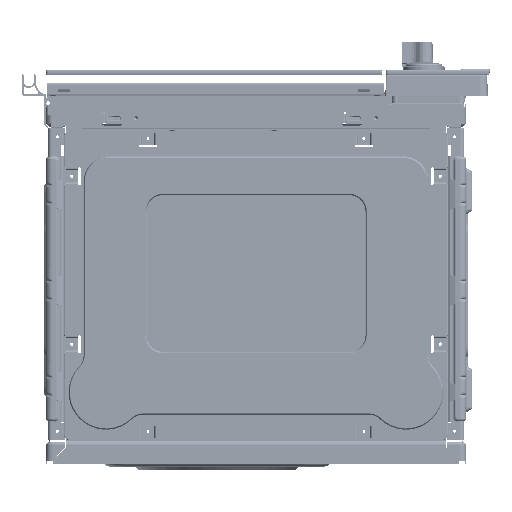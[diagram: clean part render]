
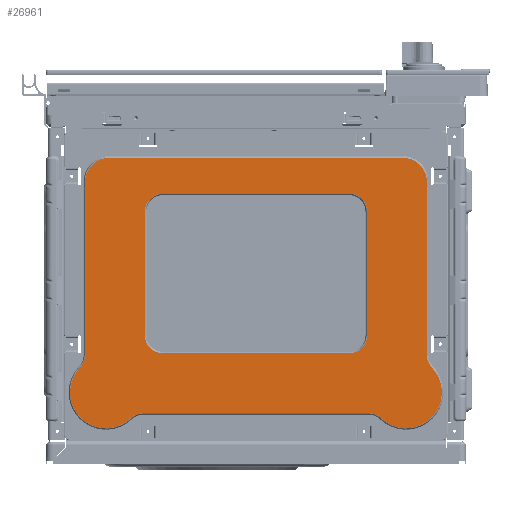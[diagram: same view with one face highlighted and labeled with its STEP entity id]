
A CAD part, left-side view. The second image highlights one B-rep face of the part: STEP entity #26961.
In plain terms, the highlighted planar face has unit normal (-1, 0, 0).
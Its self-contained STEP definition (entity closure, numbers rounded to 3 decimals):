
#2751=FACE_BOUND('',#54908,.T.);
#2752=FACE_BOUND('',#54909,.T.);
#15421=CIRCLE('',#210110,15.115);
#15422=CIRCLE('',#210111,29.885);
#15423=CIRCLE('',#210112,15.115);
#15424=CIRCLE('',#210113,19.885);
#15425=CIRCLE('',#210114,19.885);
#15426=CIRCLE('',#210115,15.115);
#15427=CIRCLE('',#210116,29.885);
#15428=CIRCLE('',#210117,15.115);
#15429=CIRCLE('',#210118,15.115);
#15430=CIRCLE('',#210119,15.115);
#15431=CIRCLE('',#210120,15.115);
#15432=CIRCLE('',#210121,15.115);
#26961=ADVANCED_FACE('',(#2751,#2752),#35973,.T.);
#35973=PLANE('',#210122);
#54908=EDGE_LOOP('',(#117836,#117837,#117838,#117839,#117840,#117841,#117842,
#117843,#117844,#117845,#117846,#117847));
#54909=EDGE_LOOP('',(#117848,#117849,#117850,#117851,#117852,#117853,#117854,
#117855));
#70042=LINE('',#363680,#85833);
#70043=LINE('',#363689,#85834);
#70044=LINE('',#363693,#85835);
#70045=LINE('',#363697,#85836);
#70046=LINE('',#363705,#85837);
#70047=LINE('',#363708,#85838);
#70048=LINE('',#363712,#85839);
#70049=LINE('',#363716,#85840);
#85833=VECTOR('',#245822,1.);
#85834=VECTOR('',#245831,1.);
#85835=VECTOR('',#245834,1.);
#85836=VECTOR('',#245837,1.);
#85837=VECTOR('',#245844,1.);
#85838=VECTOR('',#245847,1.);
#85839=VECTOR('',#245850,1.);
#85840=VECTOR('',#245853,1.);
#117836=ORIENTED_EDGE('',*,*,#182317,.T.);
#117837=ORIENTED_EDGE('',*,*,#182318,.T.);
#117838=ORIENTED_EDGE('',*,*,#182319,.T.);
#117839=ORIENTED_EDGE('',*,*,#182320,.T.);
#117840=ORIENTED_EDGE('',*,*,#182321,.T.);
#117841=ORIENTED_EDGE('',*,*,#182322,.T.);
#117842=ORIENTED_EDGE('',*,*,#182323,.T.);
#117843=ORIENTED_EDGE('',*,*,#182324,.T.);
#117844=ORIENTED_EDGE('',*,*,#182325,.T.);
#117845=ORIENTED_EDGE('',*,*,#182326,.F.);
#117846=ORIENTED_EDGE('',*,*,#182327,.T.);
#117847=ORIENTED_EDGE('',*,*,#182328,.T.);
#117848=ORIENTED_EDGE('',*,*,#182316,.T.);
#117849=ORIENTED_EDGE('',*,*,#182329,.T.);
#117850=ORIENTED_EDGE('',*,*,#182330,.T.);
#117851=ORIENTED_EDGE('',*,*,#182331,.T.);
#117852=ORIENTED_EDGE('',*,*,#182332,.T.);
#117853=ORIENTED_EDGE('',*,*,#182333,.T.);
#117854=ORIENTED_EDGE('',*,*,#182334,.T.);
#117855=ORIENTED_EDGE('',*,*,#182335,.T.);
#160320=VERTEX_POINT('',#363677);
#160321=VERTEX_POINT('',#363679);
#160322=VERTEX_POINT('',#363683);
#160323=VERTEX_POINT('',#363684);
#160324=VERTEX_POINT('',#363686);
#160325=VERTEX_POINT('',#363688);
#160326=VERTEX_POINT('',#363690);
#160327=VERTEX_POINT('',#363692);
#160328=VERTEX_POINT('',#363694);
#160329=VERTEX_POINT('',#363696);
#160330=VERTEX_POINT('',#363698);
#160331=VERTEX_POINT('',#363700);
#160332=VERTEX_POINT('',#363702);
#160333=VERTEX_POINT('',#363704);
#160334=VERTEX_POINT('',#363707);
#160335=VERTEX_POINT('',#363709);
#160336=VERTEX_POINT('',#363711);
#160337=VERTEX_POINT('',#363713);
#160338=VERTEX_POINT('',#363715);
#160339=VERTEX_POINT('',#363717);
#182316=EDGE_CURVE('',#160320,#160321,#70042,.T.);
#182317=EDGE_CURVE('',#160322,#160323,#15421,.T.);
#182318=EDGE_CURVE('',#160323,#160324,#15422,.T.);
#182319=EDGE_CURVE('',#160324,#160325,#15423,.T.);
#182320=EDGE_CURVE('',#160325,#160326,#70043,.T.);
#182321=EDGE_CURVE('',#160326,#160327,#15424,.T.);
#182322=EDGE_CURVE('',#160327,#160328,#70044,.T.);
#182323=EDGE_CURVE('',#160328,#160329,#15425,.T.);
#182324=EDGE_CURVE('',#160329,#160330,#70045,.T.);
#182325=EDGE_CURVE('',#160330,#160331,#15426,.T.);
#182326=EDGE_CURVE('',#160332,#160331,#15427,.T.);
#182327=EDGE_CURVE('',#160332,#160333,#15428,.T.);
#182328=EDGE_CURVE('',#160333,#160322,#70046,.T.);
#182329=EDGE_CURVE('',#160321,#160334,#15429,.T.);
#182330=EDGE_CURVE('',#160334,#160335,#70047,.T.);
#182331=EDGE_CURVE('',#160335,#160336,#15430,.T.);
#182332=EDGE_CURVE('',#160336,#160337,#70048,.T.);
#182333=EDGE_CURVE('',#160337,#160338,#15431,.T.);
#182334=EDGE_CURVE('',#160338,#160339,#70049,.T.);
#182335=EDGE_CURVE('',#160339,#160320,#15432,.T.);
#210110=AXIS2_PLACEMENT_3D('',#363682,#245825,#245826);
#210111=AXIS2_PLACEMENT_3D('',#363685,#245827,#245828);
#210112=AXIS2_PLACEMENT_3D('',#363687,#245829,#245830);
#210113=AXIS2_PLACEMENT_3D('',#363691,#245832,#245833);
#210114=AXIS2_PLACEMENT_3D('',#363695,#245835,#245836);
#210115=AXIS2_PLACEMENT_3D('',#363699,#245838,#245839);
#210116=AXIS2_PLACEMENT_3D('',#363701,#245840,#245841);
#210117=AXIS2_PLACEMENT_3D('',#363703,#245842,#245843);
#210118=AXIS2_PLACEMENT_3D('',#363706,#245845,#245846);
#210119=AXIS2_PLACEMENT_3D('',#363710,#245848,#245849);
#210120=AXIS2_PLACEMENT_3D('',#363714,#245851,#245852);
#210121=AXIS2_PLACEMENT_3D('',#363718,#245854,#245855);
#210122=AXIS2_PLACEMENT_3D('',#363719,#245856,#245857);
#245822=DIRECTION('',(0.,1.,0.));
#245825=DIRECTION('',(1.,0.,0.));
#245826=DIRECTION('',(0.,0.,1.));
#245827=DIRECTION('',(-1.,0.,0.));
#245828=DIRECTION('',(0.,0.692,-0.722));
#245829=DIRECTION('',(1.,0.,0.));
#245830=DIRECTION('',(0.,0.722,-0.692));
#245831=DIRECTION('',(0.,0.,1.));
#245832=DIRECTION('',(-1.,0.,0.));
#245833=DIRECTION('',(0.,-1.,0.));
#245834=DIRECTION('',(0.,1.,0.));
#245835=DIRECTION('',(-1.,0.,0.));
#245836=DIRECTION('',(0.,0.,1.));
#245837=DIRECTION('',(0.,0.,-1.));
#245838=DIRECTION('',(1.,0.,0.));
#245839=DIRECTION('',(0.,-1.,0.));
#245840=DIRECTION('',(1.,0.,0.));
#245841=DIRECTION('',(0.,-0.692,-0.722));
#245842=DIRECTION('',(1.,0.,0.));
#245843=DIRECTION('',(0.,0.692,0.722));
#245844=DIRECTION('',(0.,-1.,0.));
#245845=DIRECTION('',(1.,0.,0.));
#245846=DIRECTION('',(0.,0.,-1.));
#245847=DIRECTION('',(0.,0.,1.));
#245848=DIRECTION('',(1.,0.,0.));
#245849=DIRECTION('',(0.,1.,0.));
#245850=DIRECTION('',(0.,-1.,0.));
#245851=DIRECTION('',(1.,0.,0.));
#245852=DIRECTION('',(0.,0.,1.));
#245853=DIRECTION('',(0.,0.,-1.));
#245854=DIRECTION('',(1.,0.,0.));
#245855=DIRECTION('',(0.,-1.,0.));
#245856=DIRECTION('',(-1.,0.,0.));
#245857=DIRECTION('',(0.,0.,1.));
#363677=CARTESIAN_POINT('',(-276.6,-110.,79.285));
#363679=CARTESIAN_POINT('',(-276.6,45.,79.285));
#363680=CARTESIAN_POINT('',(-276.6,-110.,79.285));
#363682=CARTESIAN_POINT('',(-276.6,-126.375,14.4));
#363683=CARTESIAN_POINT('',(-276.6,-126.375,29.515));
#363684=CARTESIAN_POINT('',(-276.6,-136.83,25.317));
#363685=CARTESIAN_POINT('',(-276.6,-157.5,46.9));
#363686=CARTESIAN_POINT('',(-276.6,-179.083,67.57));
#363687=CARTESIAN_POINT('',(-276.6,-190.,78.025));
#363688=CARTESIAN_POINT('',(-276.6,-174.885,78.025));
#363689=CARTESIAN_POINT('',(-276.6,-174.885,78.025));
#363690=CARTESIAN_POINT('',(-276.6,-174.885,222.4));
#363691=CARTESIAN_POINT('',(-276.6,-155.,222.4));
#363692=CARTESIAN_POINT('',(-276.6,-155.,242.285));
#363693=CARTESIAN_POINT('',(-276.6,-155.,242.285));
#363694=CARTESIAN_POINT('',(-276.6,90.,242.285));
#363695=CARTESIAN_POINT('',(-276.6,90.,222.4));
#363696=CARTESIAN_POINT('',(-276.6,109.885,222.4));
#363697=CARTESIAN_POINT('',(-276.6,109.885,222.4));
#363698=CARTESIAN_POINT('',(-276.6,109.885,78.025));
#363699=CARTESIAN_POINT('',(-276.6,125.,78.025));
#363700=CARTESIAN_POINT('',(-276.6,114.083,67.57));
#363701=CARTESIAN_POINT('',(-276.6,92.5,46.9));
#363702=CARTESIAN_POINT('',(-276.6,71.83,25.317));
#363703=CARTESIAN_POINT('',(-276.6,61.375,14.4));
#363704=CARTESIAN_POINT('',(-276.6,61.375,29.515));
#363705=CARTESIAN_POINT('',(-276.6,61.375,29.515));
#363706=CARTESIAN_POINT('',(-276.6,45.,94.4));
#363707=CARTESIAN_POINT('',(-276.6,60.115,94.4));
#363708=CARTESIAN_POINT('',(-276.6,60.115,94.4));
#363709=CARTESIAN_POINT('',(-276.6,60.115,197.4));
#363710=CARTESIAN_POINT('',(-276.6,45.,197.4));
#363711=CARTESIAN_POINT('',(-276.6,45.,212.515));
#363712=CARTESIAN_POINT('',(-276.6,45.,212.515));
#363713=CARTESIAN_POINT('',(-276.6,-110.,212.515));
#363714=CARTESIAN_POINT('',(-276.6,-110.,197.4));
#363715=CARTESIAN_POINT('',(-276.6,-125.115,197.4));
#363716=CARTESIAN_POINT('',(-276.6,-125.115,197.4));
#363717=CARTESIAN_POINT('',(-276.6,-125.115,94.4));
#363718=CARTESIAN_POINT('',(-276.6,-110.,94.4));
#363719=CARTESIAN_POINT('',(-276.6,-32.5,136.9));
